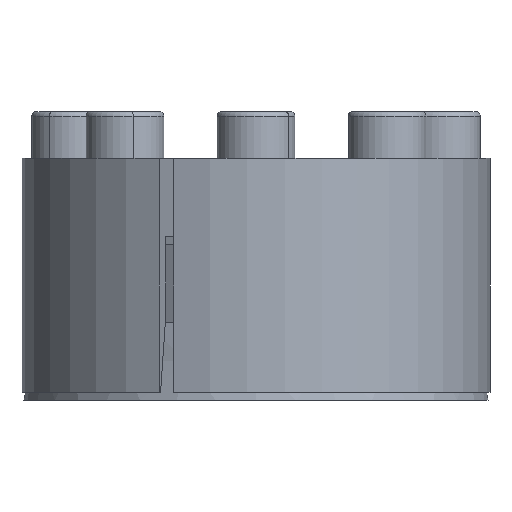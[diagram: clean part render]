
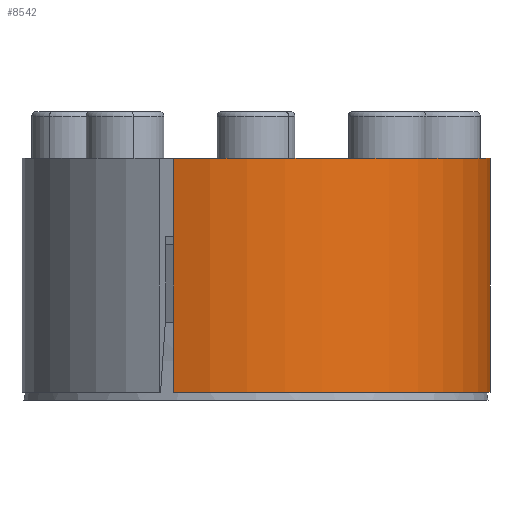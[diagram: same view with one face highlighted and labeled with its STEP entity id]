
A CAD part, front view. The second image highlights one B-rep face of the part: STEP entity #8542.
In plain terms, the highlighted cylindrical face has radius 30 mm (diameter 60 mm), a partial arc.
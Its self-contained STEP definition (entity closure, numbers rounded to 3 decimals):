
#322 = AXIS2_PLACEMENT_3D ( 'NONE', #6762, #875, #7751 ) ;
#375 = DIRECTION ( 'NONE',  ( 1., 0., 0. ) ) ;
#453 = VERTEX_POINT ( 'NONE', #11515 ) ;
#630 = ORIENTED_EDGE ( 'NONE', *, *, #11372, .F. ) ;
#687 = EDGE_CURVE ( 'NONE', #453, #6360, #6174, .T. ) ;
#735 = CIRCLE ( 'NONE', #322, 30. ) ;
#875 = DIRECTION ( 'NONE',  ( 0., 0., -1. ) ) ;
#1050 = FACE_OUTER_BOUND ( 'NONE', #11879, .T. ) ;
#1068 = CIRCLE ( 'NONE', #7671, 30. ) ;
#3516 = DIRECTION ( 'NONE',  ( -1., 0., 0. ) ) ;
#4459 = CARTESIAN_POINT ( 'NONE',  ( 0., 0., 1.011 ) ) ;
#4482 = EDGE_CURVE ( 'NONE', #7991, #453, #735, .T. ) ;
#4735 = AXIS2_PLACEMENT_3D ( 'NONE', #4459, #6404, #3516 ) ;
#4929 = LINE ( 'NONE', #8937, #7220 ) ;
#5049 = CYLINDRICAL_SURFACE ( 'NONE', #4735, 30. ) ;
#6174 = LINE ( 'NONE', #9423, #11371 ) ;
#6280 = DIRECTION ( 'NONE',  ( 0., 0., -1. ) ) ;
#6360 = VERTEX_POINT ( 'NONE', #11980 ) ;
#6404 = DIRECTION ( 'NONE',  ( 0., 0., 1. ) ) ;
#6762 = CARTESIAN_POINT ( 'NONE',  ( 0., 0., 31.011 ) ) ;
#6861 = ORIENTED_EDGE ( 'NONE', *, *, #687, .T. ) ;
#7024 = VERTEX_POINT ( 'NONE', #9055 ) ;
#7220 = VECTOR ( 'NONE', #9912, 1000. ) ;
#7671 = AXIS2_PLACEMENT_3D ( 'NONE', #12116, #6280, #375 ) ;
#7751 = DIRECTION ( 'NONE',  ( 1., 0., 0. ) ) ;
#7950 = ORIENTED_EDGE ( 'NONE', *, *, #8256, .T. ) ;
#7991 = VERTEX_POINT ( 'NONE', #11494 ) ;
#8256 = EDGE_CURVE ( 'NONE', #7024, #7991, #4929, .T. ) ;
#8413 = ORIENTED_EDGE ( 'NONE', *, *, #4482, .T. ) ;
#8542 = ADVANCED_FACE ( 'NONE', ( #1050 ), #5049, .T. ) ;
#8937 = CARTESIAN_POINT ( 'NONE',  ( 30., 0., 1.011 ) ) ;
#9055 = CARTESIAN_POINT ( 'NONE',  ( 30., 0., 1.011 ) ) ;
#9395 = DIRECTION ( 'NONE',  ( 0., 0., -1. ) ) ;
#9423 = CARTESIAN_POINT ( 'NONE',  ( -10.55, -28.084, 1.011 ) ) ;
#9912 = DIRECTION ( 'NONE',  ( 0., 0., 1. ) ) ;
#11371 = VECTOR ( 'NONE', #9395, 1000. ) ;
#11372 = EDGE_CURVE ( 'NONE', #7024, #6360, #1068, .T. ) ;
#11494 = CARTESIAN_POINT ( 'NONE',  ( 30., 0., 31.011 ) ) ;
#11515 = CARTESIAN_POINT ( 'NONE',  ( -10.55, -28.084, 31.011 ) ) ;
#11879 = EDGE_LOOP ( 'NONE', ( #630, #7950, #8413, #6861 ) ) ;
#11980 = CARTESIAN_POINT ( 'NONE',  ( -10.55, -28.084, 1.011 ) ) ;
#12116 = CARTESIAN_POINT ( 'NONE',  ( 0., 0., 1.011 ) ) ;
